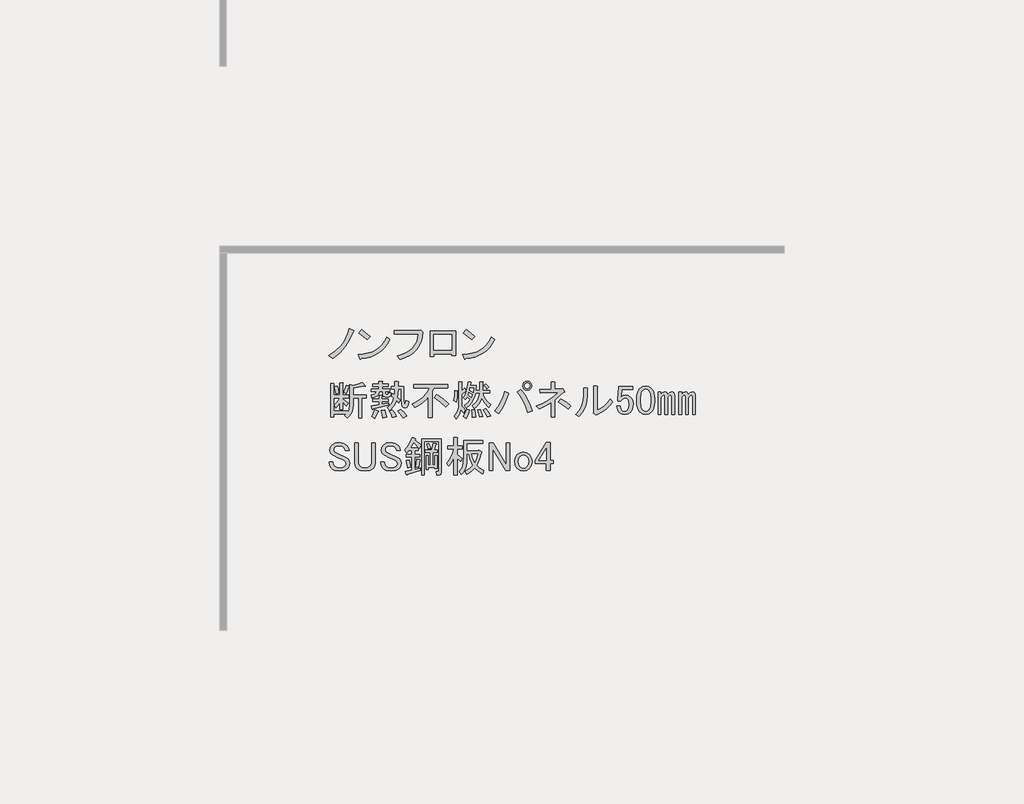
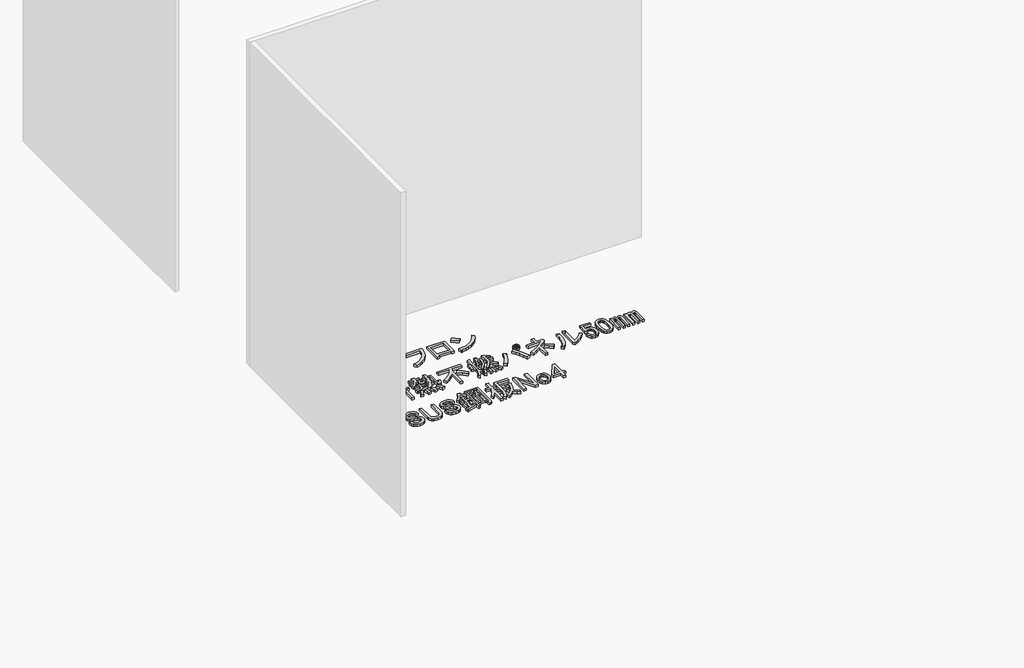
# One storey, part 32 of 117: 1 proxy.
"""IFC4 building model written with IfcOpenShell, lengths in millimetres."""

from ifc_helpers import new_model, si_unit, frame, origin, place, context, project, spatial, polyline, outline, extrude, element, save

model = new_model("IFC4")

# Units and contexts
model_context = context("Model", 3, world=origin())
ifc_project = project(units=[si_unit("LENGTHUNIT", "METRE", prefix="MILLI")], contexts=[model_context])

# Site, building, storey
site = spatial("IfcSite", under=ifc_project)
building = spatial("IfcBuilding", under=site)
storey = spatial("IfcBuildingStorey", under=building, Name="レベル 1", Elevation=500.0)

# Proxy
placement = place(None, origin())
element("IfcBuildingElementProxy", 1, Name="200㎜\u3000MS Pゴシック", ObjectType="200㎜\u3000MS Pゴシック", at=placement, inside=storey, context=model_context, shape_type="SweptSolid", body=[
    extrude(outline(polyline([(16943.6706985, -24607.0496882), (16918.0952502, -24666.8215225), (16889.646156, -24712.7998566), (16847.9782907, -24758.2034615), (16798.8389462, -24795.560858), (16771.2519457, -24773.7211493), (16818.9544673, -24743.2605029), (16858.6107805, -24704.7536481), (16875.9963381, -24680.8305462), (16891.3703435, -24652.7406577), (16904.7327969, -24620.4839827), (16916.0836981, -24584.0605212), (16947.1190736, -24597.8540214), (16950.2800841, -24602.4518548), (16943.6706985, -24607.0496882)])), frame((0.0, 0.0, 500.0), z_axis=(0.0, 0.0, 1.0), x_axis=(1.0, 0.0, 0.0)), (0.0, 0.0, 1.0), 25.0),
    extrude(outline(polyline([(17043.3977052, -24662.2236891), (16984.7753292, -24615.0958967), (17004.3161212, -24590.9572713), (17031.6157571, -24610.7854279), (17065.2374138, -24640.3839804), (17043.3977052, -24662.2236891)])), frame((0.0, 0.0, 500.0), z_axis=(0.0, 0.0, 1.0), x_axis=(1.0, 0.0, 0.0)), (0.0, 0.0, 1.0), 25.0),
    extrude(outline(polyline([(17205.4713328, -24662.2236891), (17188.947869, -24691.965924), (17169.8381239, -24717.9724192), (17148.1420975, -24740.2431748), (17123.8597898, -24758.7781907), (17096.9912008, -24773.577467), (17067.5363306, -24784.6410036), (17035.495179, -24791.9688006), (17000.8677461, -24795.560858), (16995.1204544, -24803.6070664), (16989.3731626, -24797.8597747), (16980.1774958, -24767.9738575), (17016.0082679, -24765.2977748), (17048.7857912, -24758.9937141), (17078.5100658, -24749.0616756), (17105.1810916, -24735.5016591), (17128.7988687, -24718.3136646), (17149.363397, -24697.4976923), (17166.8746766, -24673.053742), (17181.3327074, -24644.9818138), (17205.4713328, -24662.2236891)])), frame((0.0, 0.0, 500.0), z_axis=(0.0, 0.0, 1.0), x_axis=(1.0, 0.0, 0.0)), (0.0, 0.0, 1.0), 25.0),
    extrude(outline(polyline([(17256.2314136, -24777.1695243), (17290.014713, -24767.4889298), (17319.5234641, -24755.1142922), (17344.757667, -24740.0456116), (17365.7173217, -24722.282888), (17382.402428, -24701.8261214), (17394.8129862, -24678.6753118), (17402.9489961, -24652.8304591), (17406.8104577, -24624.2915635), (17234.3917049, -24624.2915635), (17234.3917049, -24599.0034798), (17409.1093744, -24599.0034798), (17425.2017914, -24595.5551047), (17437.8458332, -24607.0496882), (17434.325617, -24643.5449909), (17426.0638851, -24676.5919185), (17413.0606375, -24706.1904711), (17395.3158742, -24732.3406486), (17372.8295952, -24755.042451), (17345.6018005, -24774.2958784), (17313.6324901, -24790.1009308), (17276.921664, -24802.4576081), (17256.2314136, -24777.1695243)])), frame((0.0, 0.0, 500.0), z_axis=(0.0, 0.0, 1.0), x_axis=(1.0, 0.0, 0.0)), (0.0, 0.0, 1.0), 25.0),
    extrude(outline(polyline([(17670.955987, -24776.020066), (17644.5184449, -24776.020066), (17644.5184449, -24763.3760241), (17516.9285679, -24763.3760241), (17516.9285679, -24781.7673577), (17490.4910258, -24781.7673577), (17490.4910258, -24602.4518548), (17670.955987, -24602.4518548), (17670.955987, -24776.020066)]), holes=[polyline([(17516.9285679, -24627.7399386), (17516.9285679, -24738.0879404), (17644.5184449, -24738.0879404), (17644.5184449, -24627.7399386), (17516.9285679, -24627.7399386)])]), frame((0.0, 0.0, 500.0), z_axis=(0.0, 0.0, 1.0), x_axis=(1.0, 0.0, 0.0)), (0.0, 0.0, 1.0), 25.0),
    extrude(outline(polyline([(17947.0099049, -24662.2236891), (17930.4864411, -24691.965924), (17911.376696, -24717.9724192), (17889.6806696, -24740.2431748), (17865.3983619, -24758.7781907), (17838.5297729, -24773.577467), (17809.0749026, -24784.6410036), (17777.0337511, -24791.9688006), (17742.4063182, -24795.560858), (17736.6590264, -24803.6070664), (17730.9117347, -24797.8597747), (17721.7160679, -24767.9738575), (17757.5468399, -24765.2977748), (17790.3243633, -24758.9937141), (17820.0486378, -24749.0616756), (17846.7196637, -24735.5016591), (17870.3374407, -24718.3136646), (17890.9019691, -24697.4976923), (17908.4132486, -24673.053742), (17922.8712795, -24644.9818138), (17947.0099049, -24662.2236891)])), frame((0.0, 0.0, 500.0), z_axis=(0.0, 0.0, 1.0), x_axis=(1.0, 0.0, 0.0)), (0.0, 0.0, 1.0), 25.0),
    extrude(outline(polyline([(17784.9362772, -24662.2236891), (17726.3139013, -24615.0958967), (17745.8546933, -24590.9572713), (17773.1543291, -24610.7854279), (17806.7759859, -24640.3839804), (17784.9362772, -24662.2236891)])), frame((0.0, 0.0, 500.0), z_axis=(0.0, 0.0, 1.0), x_axis=(1.0, 0.0, 0.0)), (0.0, 0.0, 1.0), 25.0),
    extrude(outline(polyline([(16877.0021141, -25039.2345221), (16894.2439894, -24986.3594379), (16914.9342397, -24992.1067296), (16916.6584273, -24995.2677401), (16912.635323, -24997.8540214), (16895.3934477, -25046.1312722), (16877.0021141, -25039.2345221)])), frame((0.0, 0.0, 500.0), z_axis=(0.0, 0.0, 1.0), x_axis=(1.0, 0.0, 0.0)), (0.0, 0.0, 1.0), 25.0),
    extrude(outline(polyline([(17031.0295333, -24990.9572713), (17029.3053458, -24995.5551047), (17021.8338665, -24993.256188), (16944.8201569, -25005.9002299), (16944.8201569, -25055.326939), (17036.7768251, -25055.326939), (17036.7768251, -25077.1666477), (17005.7414495, -25077.1666477), (17005.7414495, -25217.4005666), (16982.7522825, -25217.4005666), (16982.7522825, -25077.1666477), (16944.8201569, -25077.1666477), (16944.8201569, -25126.5933568), (16942.2338756, -25154.3958807), (16934.4750317, -25179.1810764), (16921.5436253, -25200.948944), (16903.4396562, -25219.6994833), (16886.1977809, -25200.1586914), (16896.5429061, -25190.9630245), (16806.8851546, -25190.9630245), (16806.8851546, -25212.8027332), (16783.8959876, -25212.8027332), (16783.8959876, -24973.715396), (16805.7356963, -24973.715396), (16810.6208943, -24976.0143127), (16806.8851546, -24980.6121461), (16806.8851546, -25056.4763974), (16849.4151137, -25056.4763974), (16849.4151137, -24969.1175626), (16867.8064473, -24969.1175626), (16872.6916453, -24971.4164793), (16868.9559057, -24976.0143127), (16868.9559057, -25056.4763974), (16912.635323, -25056.4763974), (16912.635323, -25074.867731), (16868.9559057, -25074.867731), (16868.9559057, -25084.0633978), (16909.186948, -25110.5009399), (16895.3934477, -25132.3406486), (16868.9559057, -25105.9031065), (16868.9559057, -25158.7781907), (16849.4151137, -25158.7781907), (16849.4151137, -25110.5009399), (16836.1963426, -25130.3290965), (16821.8281132, -25146.1341488), (16809.1840713, -25127.7428152), (16831.02378, -25103.6041898), (16848.2656553, -25074.867731), (16806.8851546, -25074.867731), (16806.8851546, -25169.1233159), (16904.5891146, -25169.1233159), (16904.5891146, -25182.9168161), (16917.520521, -25158.7781907), (16921.8309898, -25125.4438985), (16921.8309898, -24980.6121461), (16943.6706985, -24986.3594379), (16979.8786366, -24978.8879586), (17010.339283, -24965.6691875), (17031.0295333, -24990.9572713)])), frame((0.0, 0.0, 500.0), z_axis=(0.0, 0.0, 1.0), x_axis=(1.0, 0.0, 0.0)), (0.0, 0.0, 1.0), 25.0),
    extrude(outline(polyline([(16822.9775716, -25047.2807305), (16810.3335297, -24996.7045631), (16829.8743217, -24989.8078129), (16837.6331656, -25013.9464383), (16842.5183636, -25040.3839804), (16822.9775716, -25047.2807305)])), frame((0.0, 0.0, 500.0), z_axis=(0.0, 0.0, 1.0), x_axis=(1.0, 0.0, 0.0)), (0.0, 0.0, 1.0), 25.0),
    extrude(outline(polyline([(17121.8367431, -25167.9738575), (17125.2851182, -25172.8590555), (17119.5378264, -25176.020066), (17109.7674304, -25201.5955143), (17098.8475761, -25220.8489417), (17075.858409, -25209.3543582), (17088.5024509, -25185.790462), (17098.8475761, -25158.7781907), (17121.8367431, -25167.9738575)])), frame((0.0, 0.0, 500.0), z_axis=(0.0, 0.0, 1.0), x_axis=(1.0, 0.0, 0.0)), (0.0, 0.0, 1.0), 25.0),
    extrude(outline(polyline([(17166.6656188, -25163.3760241), (17176.7233794, -25190.67566), (17181.6085774, -25212.8027332), (17152.8721186, -25218.550025), (17150.2858373, -25196.9976809), (17142.5269934, -25166.8243992), (17166.6656188, -25163.3760241)])), frame((0.0, 0.0, 500.0), z_axis=(0.0, 0.0, 1.0), x_axis=(1.0, 0.0, 0.0)), (0.0, 0.0, 1.0), 25.0),
    extrude(outline(polyline([(17281.611454, -25157.6287323), (17306.3248086, -25178.8937119), (17325.2908714, -25203.6070664), (17298.8533293, -25218.550025), (17279.5999019, -25188.9514724), (17260.9212037, -25169.1233159), (17281.611454, -25157.6287323)])), frame((0.0, 0.0, 500.0), z_axis=(0.0, 0.0, 1.0), x_axis=(1.0, 0.0, 0.0)), (0.0, 0.0, 1.0), 25.0),
    extrude(outline(polyline([(17222.9890781, -25216.2511083), (17214.655505, -25191.5377537), (17201.1493694, -25170.2727742), (17221.8396197, -25162.2265657), (17238.7941304, -25183.7789098), (17250.5760785, -25207.0554415), (17222.9890781, -25216.2511083)])), frame((0.0, 0.0, 500.0), z_axis=(0.0, 0.0, 1.0), x_axis=(1.0, 0.0, 0.0)), (0.0, 0.0, 1.0), 25.0),
    extrude(outline(polyline([(17083.9046175, -25153.0308989), (17081.8930654, -25157.9160969), (17078.1573257, -25156.479274), (17072.410034, -25132.3406486), (17127.5840349, -25124.2944401), (17127.5840349, -25101.3052731), (17083.9046175, -25101.3052731), (17083.9046175, -25082.9139395), (17127.5840349, -25082.9139395), (17127.5840349, -25059.9247724), (17145.9753685, -25059.9247724), (17150.8605665, -25062.2236891), (17147.1248268, -25066.8215225), (17147.1248268, -25082.9139395), (17191.9537026, -25082.9139395), (17191.9537026, -25101.3052731), (17147.1248268, -25101.3052731), (17147.1248268, -25120.8460651), (17197.7009943, -25111.6503983), (17197.7009943, -25127.7428152), (17083.9046175, -25153.0308989)])), frame((0.0, 0.0, 500.0), z_axis=(0.0, 0.0, 1.0), x_axis=(1.0, 0.0, 0.0)), (0.0, 0.0, 1.0), 25.0),
    extrude(outline(polyline([(17154.021577, -25031.1883136), (17128.7334932, -25031.1883136), (17124.1356598, -25048.6457123), (17113.7905346, -25061.9363245), (17097.6981177, -25071.0601502), (17075.858409, -25076.0171893), (17071.2605756, -25056.4763974), (17096.5486594, -25047.8554597), (17104.0201386, -25040.5276627), (17108.0432429, -25031.1883136), (17072.410034, -25031.1883136), (17072.410034, -25012.79698), (17126.4345765, -25012.79698), (17126.4345765, -24995.5551047), (17082.7551591, -24995.5551047), (17082.7551591, -24977.1637711), (17126.4345765, -24977.1637711), (17126.4345765, -24958.7724374), (17148.2742852, -24958.7724374), (17153.1594832, -24961.0713541), (17149.4237436, -24965.6691875), (17149.4237436, -24977.1637711), (17191.9537026, -24977.1637711), (17191.9537026, -24995.5551047), (17149.4237436, -24995.5551047), (17149.4237436, -25012.79698), (17202.2988277, -25012.79698), (17202.2988277, -25031.1883136), (17173.5623689, -25031.1883136), (17173.5623689, -25043.8323555), (17174.9991919, -25049.0049181), (17179.3096607, -25050.7291056), (17189.6547859, -25050.7291056), (17193.3905255, -25047.5680951), (17193.1031609, -25038.0850637), (17212.6439529, -25040.3839804), (17209.770307, -25061.9363245), (17204.4540622, -25067.3244106), (17196.551536, -25069.1204392), (17172.4129106, -25069.1204392), (17158.6194104, -25064.2352412), (17154.021577, -25049.5796472), (17154.021577, -25031.1883136)])), frame((0.0, 0.0, 500.0), z_axis=(0.0, 0.0, 1.0), x_axis=(1.0, 0.0, 0.0)), (0.0, 0.0, 1.0), 25.0),
    extrude(outline(polyline([(17285.0598291, -25013.9464383), (17263.2201204, -25013.9464383), (17258.622287, -25071.4193559), (17278.163079, -25089.8106896), (17267.8179538, -25111.6503983), (17251.7255369, -25095.5579813), (17232.4721095, -25133.2027424), (17202.2988277, -25165.6749408), (17185.0569525, -25144.9846905), (17200.1435933, -25133.0590601), (17213.2186821, -25117.9724192), (17224.2822187, -25099.7247679), (17233.3342033, -25078.316106), (17216.092328, -25063.3731475), (17224.1385364, -25046.1312722), (17237.9320367, -25056.4763974), (17240.2309534, -25013.9464383), (17212.6439529, -25013.9464383), (17212.6439529, -24995.5551047), (17240.2309534, -24995.5551047), (17240.2309534, -24961.0713541), (17262.0706621, -24961.0713541), (17266.95586, -24963.3702708), (17263.2201204, -24967.9681043), (17263.2201204, -24995.5551047), (17304.6006211, -24995.5551047), (17304.6006211, -25092.1096063), (17308.0489961, -25116.2482317), (17311.2818477, -25118.2597838), (17314.0836525, -25115.0987733), (17318.3941213, -25093.2590646), (17337.9349133, -25100.1558147), (17333.408921, -25126.9525626), (17325.578236, -25142.9731384), (17314.4428582, -25148.2175421), (17300.0027877, -25142.6857738), (17293.4652433, -25135.3579768), (17288.7955687, -25123.719711), (17285.0598291, -25087.5117729), (17285.0598291, -25013.9464383)])), frame((0.0, 0.0, 500.0), z_axis=(0.0, 0.0, 1.0), x_axis=(1.0, 0.0, 0.0)), (0.0, 0.0, 1.0), 25.0),
    extrude(outline(polyline([(17373.5681222, -24980.6121461), (17614.9543761, -24980.6121461), (17614.9543761, -25005.9002299), (17514.9514995, -25005.9002299), (17504.6063743, -25030.0388553), (17504.6063743, -25216.2511083), (17478.1688322, -25216.2511083), (17478.1688322, -25069.1204392), (17457.3348996, -25092.3969709), (17433.9146857, -25112.7998566), (17407.9081905, -25130.3290965), (17379.315414, -25144.9846905), (17363.222997, -25118.5471484), (17402.807469, -25098.1442626), (17436.500967, -25072.5688143), (17464.3034909, -25041.8208034), (17486.2150407, -25005.9002299), (17373.5681222, -25005.9002299), (17373.5681222, -24980.6121461)])), frame((0.0, 0.0, 500.0), z_axis=(0.0, 0.0, 1.0), x_axis=(1.0, 0.0, 0.0)), (0.0, 0.0, 1.0), 25.0),
    extrude(outline(polyline([(17600.0114176, -25141.5363154), (17560.9298336, -25103.3168252), (17519.5493329, -25073.7182726), (17535.6417498, -25053.0280223), (17579.3211672, -25081.1897519), (17620.7016679, -25119.6966067), (17600.0114176, -25141.5363154)])), frame((0.0, 0.0, 500.0), z_axis=(0.0, 0.0, 1.0), x_axis=(1.0, 0.0, 0.0)), (0.0, 0.0, 1.0), 25.0),
    extrude(outline(polyline([(17767.832337, -25163.3760241), (17759.2113993, -25193.8366704), (17744.8431699, -25220.8489417), (17725.3023779, -25208.2048998), (17739.3832427, -25183.4915453), (17749.4410033, -25155.3298156), (17767.832337, -25163.3760241)])), frame((0.0, 0.0, 500.0), z_axis=(0.0, 0.0, 1.0), x_axis=(1.0, 0.0, 0.0)), (0.0, 0.0, 1.0), 25.0),
    extrude(outline(polyline([(17682.7724189, -25025.4410219), (17687.3702523, -25027.7399386), (17682.7724189, -25032.337772), (17681.6229605, -25071.9940851), (17675.8756688, -25105.9031065), (17657.4843352, -25093.2590646), (17663.2316269, -25058.7753141), (17664.3810853, -25021.9926468), (17682.7724189, -25025.4410219)])), frame((0.0, 0.0, 500.0), z_axis=(0.0, 0.0, 1.0), x_axis=(1.0, 0.0, 0.0)), (0.0, 0.0, 1.0), 25.0),
    extrude(outline(polyline([(17734.4980447, -25007.0496882), (17743.6937116, -25024.2915635), (17745.1305345, -25030.3262199), (17740.2453365, -25030.0388553), (17713.8077944, -25050.7291056), (17713.8077944, -25134.6395653), (17727.6012946, -25146.9962426), (17739.0958781, -25163.3760241), (17726.4518363, -25184.0662744), (17708.0605026, -25158.7781907), (17696.2785545, -25194.6987642), (17674.7262104, -25224.2973168), (17659.7832519, -25205.9059831), (17674.8698927, -25187.1554438), (17685.6460648, -25166.5370346), (17692.111768, -25144.0507556), (17694.2670024, -25119.6966067), (17694.2670024, -24962.2208125), (17712.6583361, -24962.2208125), (17717.543534, -24964.5197292), (17713.8077944, -24969.1175626), (17713.8077944, -25027.7399386), (17734.4980447, -25007.0496882)])), frame((0.0, 0.0, 500.0), z_axis=(0.0, 0.0, 1.0), x_axis=(1.0, 0.0, 0.0)), (0.0, 0.0, 1.0), 25.0),
    extrude(outline(polyline([(17885.0770889, -24976.0143127), (17906.9167975, -25000.1529381), (17889.6749223, -25011.6475216), (17883.0655367, -25000.1529381), (17870.1341303, -24986.3594379), (17885.0770889, -24976.0143127)])), frame((0.0, 0.0, 500.0), z_axis=(0.0, 0.0, 1.0), x_axis=(1.0, 0.0, 0.0)), (0.0, 0.0, 1.0), 25.0),
    extrude(outline(polyline([(17895.422214, -25212.8027332), (17882.203443, -25184.6410036), (17865.5362969, -25159.927649), (17883.9276305, -25151.8814406), (17902.8936933, -25174.8706076), (17918.4113811, -25202.4576081), (17895.422214, -25212.8027332)])), frame((0.0, 0.0, 500.0), z_axis=(0.0, 0.0, 1.0), x_axis=(1.0, 0.0, 0.0)), (0.0, 0.0, 1.0), 25.0),
    extrude(outline(polyline([(17845.9955049, -25157.6287323), (17864.3868385, -25207.0554415), (17840.2482131, -25211.6532749), (17826.4547129, -25161.0771074), (17845.9955049, -25157.6287323)])), frame((0.0, 0.0, 500.0), z_axis=(0.0, 0.0, 1.0), x_axis=(1.0, 0.0, 0.0)), (0.0, 0.0, 1.0), 25.0),
    extrude(outline(polyline([(17787.3731289, -25215.1016499), (17787.9478581, -25188.0893787), (17785.0742122, -25159.927649), (17804.6150042, -25158.7781907), (17810.9370252, -25184.9283682), (17811.5117543, -25212.8027332), (17787.3731289, -25215.1016499)])), frame((0.0, 0.0, 500.0), z_axis=(0.0, 0.0, 1.0), x_axis=(1.0, 0.0, 0.0)), (0.0, 0.0, 1.0), 25.0),
    extrude(outline(polyline([(17906.9167975, -25142.6857738), (17876.1687866, -25112.2251274), (17855.1911717, -25078.316106), (17846.7857575, -25100.4431793), (17835.3630151, -25119.6966067), (17820.9229446, -25136.0763882), (17803.4655459, -25149.5825239), (17789.6720456, -25131.1911902), (17810.5059783, -25112.2969686), (17825.8799837, -25091.2475125), (17835.794062, -25068.042822), (17840.2482131, -25042.6828971), (17811.5117543, -25042.6828971), (17803.537387, -25073.2872258), (17789.9594102, -25100.7305439), (17770.777824, -25125.0128516), (17745.9926283, -25146.1341488), (17733.3485864, -25130.0417319), (17759.2113993, -25108.4893878), (17774.7290871, -25087.5117729), (17752.8893784, -25067.9709809), (17739.0958781, -25088.6612312), (17725.3023779, -25073.7182726), (17737.7308964, -25054.6803687), (17747.4294512, -25029.7514907), (17754.3980425, -24998.9316386), (17758.6366701, -24962.2208125), (17779.3269205, -24964.5197292), (17782.7752955, -24967.1060105), (17777.0280038, -24970.267021), (17774.7290871, -24988.6583546), (17818.4085044, -24988.6583546), (17814.9601294, -25024.2915635), (17840.2482131, -25024.2915635), (17840.2482131, -24962.2208125), (17862.0879218, -24962.2208125), (17866.9731198, -24964.5197292), (17863.2373802, -24969.1175626), (17863.2373802, -25024.2915635), (17912.6640893, -25024.2915635), (17912.6640893, -25042.6828971), (17863.2373802, -25042.6828971), (17869.7749245, -25064.4507647), (17881.3413492, -25084.9254916), (17897.9366542, -25104.1070778), (17919.5608394, -25121.9955234), (17906.9167975, -25142.6857738)]), holes=[polyline([(17782.7752955, -25072.5688143), (17789.6720456, -25053.0280223), (17764.3839619, -25036.9356054), (17758.6366701, -25054.1774807), (17782.7752955, -25072.5688143)]), polyline([(17772.4301704, -25007.0496882), (17768.9817953, -25023.1421052), (17794.269879, -25036.9356054), (17798.8677125, -25007.0496882), (17772.4301704, -25007.0496882)])]), frame((0.0, 0.0, 500.0), z_axis=(0.0, 0.0, 1.0), x_axis=(1.0, 0.0, 0.0)), (0.0, 0.0, 1.0), 25.0),
    extrude(outline(polyline([(18132.2106345, -25016.245355), (18158.8637001, -25052.9561812), (18181.3499791, -25090.6727833), (18199.6694716, -25129.3951616), (18213.8221775, -25169.1233159), (18182.786802, -25179.468441), (18167.3409554, -25136.3637528), (18149.7398744, -25097.856898), (18129.983559, -25063.9478766), (18108.0720092, -25034.6366887), (18132.2106345, -25016.245355)])), frame((0.0, 0.0, 500.0), z_axis=(0.0, 0.0, 1.0), x_axis=(1.0, 0.0, 0.0)), (0.0, 0.0, 1.0), 25.0),
    extrude(outline(polyline([(18044.8517998, -25042.6828971), (18048.874904, -25048.1428243), (18042.5528831, -25053.0280223), (18030.6272527, -25088.4457078), (18015.5406118, -25122.282888), (17997.2929605, -25154.539563), (17975.8842987, -25185.2157328), (17949.4467566, -25167.9738575), (17972.6514471, -25136.5074351), (17991.689351, -25103.0294606), (18006.5604684, -25067.539934), (18017.2647993, -25030.0388553), (18044.8517998, -25042.6828971)])), frame((0.0, 0.0, 500.0), z_axis=(0.0, 0.0, 1.0), x_axis=(1.0, 0.0, 0.0)), (0.0, 0.0, 1.0), 25.0),
    extrude(outline(polyline([(18178.1889686, -25021.9926468), (18165.5449268, -25019.6937301), (18155.1998016, -25012.79698), (18148.3030515, -25002.4518548), (18146.0041348, -24989.8078129), (18148.3030515, -24977.1637711), (18155.1998016, -24966.8186459), (18165.5449268, -24959.9218958), (18178.1889686, -24957.6229791), (18190.8330105, -24959.9218958), (18201.1781357, -24966.8186459), (18208.0748858, -24977.1637711), (18210.3738025, -24989.8078129), (18208.0748858, -25002.4518548), (18201.1781357, -25012.79698), (18190.8330105, -25019.6937301), (18178.1889686, -25021.9926468)]), holes=[polyline([(18178.1889686, -25010.4980633), (18186.5225417, -25009.0612403), (18193.1319272, -25004.7507715), (18197.442396, -24998.141386), (18198.879219, -24989.8078129), (18197.442396, -24981.4742399), (18193.1319272, -24974.8648544), (18186.5225417, -24970.5543855), (18178.1889686, -24969.1175626), (18169.8553956, -24970.5543855), (18163.2460101, -24974.8648544), (18158.9355412, -24981.4742399), (18157.4987183, -24989.8078129), (18158.9355412, -24998.141386), (18163.2460101, -25004.7507715), (18169.8553956, -25009.0612403), (18178.1889686, -25010.4980633)])]), frame((0.0, 0.0, 500.0), z_axis=(0.0, 0.0, 1.0), x_axis=(1.0, 0.0, 0.0)), (0.0, 0.0, 1.0), 25.0),
    extrude(outline(polyline([(18421.8741393, -25011.6475216), (18428.7708894, -25009.3486049), (18441.4149312, -25026.5904802), (18442.5643896, -25032.6251366), (18436.8170978, -25034.6366887), (18373.5968885, -25090.9601479), (18373.5968885, -25211.6532749), (18347.1593464, -25211.6532749), (18347.1593464, -25109.3514816), (18306.9283041, -25133.4901069), (18262.0994283, -25155.3298156), (18242.5586363, -25134.6395653), (18288.1059235, -25115.1706145), (18329.3427419, -25092.3969709), (18366.2690915, -25066.3186345), (18398.8849722, -25036.9356054), (18268.9961784, -25042.6828971), (18265.5478034, -25017.3948134), (18347.1593464, -25015.0958967), (18347.1593464, -24963.3702708), (18370.1485134, -24963.3702708), (18376.1831698, -24966.8186459), (18373.5968885, -24972.5659377), (18373.5968885, -25013.9464383), (18421.8741393, -25011.6475216)])), frame((0.0, 0.0, 500.0), z_axis=(0.0, 0.0, 1.0), x_axis=(1.0, 0.0, 0.0)), (0.0, 0.0, 1.0), 25.0),
    extrude(outline(polyline([(18467.8524733, -25155.3298156), (18430.7824415, -25126.0186277), (18397.7355139, -25104.7536481), (18414.9773892, -25082.9139395), (18453.7716085, -25106.1904711), (18487.3932653, -25132.3406486), (18467.8524733, -25155.3298156)])), frame((0.0, 0.0, 500.0), z_axis=(0.0, 0.0, 1.0), x_axis=(1.0, 0.0, 0.0)), (0.0, 0.0, 1.0), 25.0),
    extrude(outline(polyline([(18674.8469334, -25162.2265657), (18699.6321291, -25150.0135708), (18723.4115488, -25132.9153778), (18746.1851924, -25110.9319868), (18767.9530599, -25084.0633978), (18784.0454768, -25105.9031065), (18760.7689452, -25133.7056304), (18734.6187677, -25157.3413678), (18705.5949443, -25176.8103186), (18673.697475, -25192.1124829), (18664.5018082, -25196.7103163), (18646.1104746, -25182.9168161), (18648.4093913, -25177.1695243), (18648.4093913, -24992.1067296), (18672.5480167, -24992.1067296), (18678.2953084, -24995.5551047), (18674.8469334, -25001.3023965), (18674.8469334, -25162.2265657)])), frame((0.0, 0.0, 500.0), z_axis=(0.0, 0.0, 1.0), x_axis=(1.0, 0.0, 0.0)), (0.0, 0.0, 1.0), 25.0),
    extrude(outline(polyline([(18520.8195142, -25193.2619413), (18545.9639157, -25164.0225944), (18563.9242024, -25131.4785548), (18574.7003745, -25095.6298225), (18578.2924318, -25056.4763974), (18578.2924318, -25004.7507715), (18602.4310572, -25004.7507715), (18608.178349, -25008.1991466), (18604.7299739, -25013.9464383), (18604.7299739, -25055.326939), (18600.9223931, -25101.0897496), (18589.4996507, -25141.82368), (18570.4617468, -25177.5287301), (18543.8086812, -25208.2048998), (18520.8195142, -25193.2619413)])), frame((0.0, 0.0, 500.0), z_axis=(0.0, 0.0, 1.0), x_axis=(1.0, 0.0, 0.0)), (0.0, 0.0, 1.0), 25.0),
    extrude(outline(polyline([(18825.4259775, -24995.5551047), (18924.2793958, -24995.5551047), (18924.2793958, -25017.3948134), (18847.2656862, -25017.3948134), (18847.2656862, -25020.8431884), (18843.8173111, -25063.3731475), (18842.6678528, -25070.2698976), (18858.1855405, -25059.9247724), (18874.8526866, -25056.4763974), (18895.8303016, -25060.212137), (18912.7848123, -25071.4193559), (18924.854125, -25091.2475125), (18928.8772292, -25118.5471484), (18923.7046666, -25153.0308989), (18917.2389634, -25166.8243992), (18908.1869788, -25178.3189827), (18890.0830098, -25190.3882954), (18867.9559365, -25194.4113996), (18846.9783216, -25190.67566), (18830.0238109, -25179.468441), (18817.9544982, -25160.7897428), (18811.6324773, -25134.6395653), (18838.0700194, -25134.6395653), (18842.0931236, -25153.3182635), (18849.5646029, -25165.6749408), (18857.3234468, -25170.8475034), (18866.8064782, -25172.5716909), (18879.1631555, -25170.5601388), (18888.6461869, -25164.5254825), (18898.1292183, -25147.5709718), (18901.2902287, -25121.9955234), (18898.7039474, -25097.856898), (18890.9451036, -25082.9139395), (18883.4736243, -25077.7413769), (18874.8526866, -25076.0171893), (18861.9212802, -25078.6034706), (18850.7140612, -25086.3623145), (18841.5183944, -25096.7074397), (18818.5292274, -25096.7074397), (18819.6786857, -25088.6612312), (18825.4259775, -25000.1529381), (18825.4259775, -24995.5551047)])), frame((0.0, 0.0, 500.0), z_axis=(0.0, 0.0, 1.0), x_axis=(1.0, 0.0, 0.0)), (0.0, 0.0, 1.0), 25.0),
    extrude(outline(polyline([(18954.1653129, -25081.7644811), (18955.6021359, -25058.2005849), (18959.9126047, -25038.0850637), (18967.0967194, -25021.4179176), (18977.15448, -25008.1991466), (18995.258449, -24996.1298339), (19017.3855223, -24992.1067296), (19039.5125956, -24996.1298339), (19057.6165646, -25008.1991466), (19067.6743252, -25021.4179176), (19074.8584399, -25038.0850637), (19079.1689087, -25058.2005849), (19080.6057317, -25081.7644811), (19080.6057317, -25104.7536481), (19079.1689087, -25127.8146563), (19074.8584399, -25147.5709718), (19067.6743252, -25164.0225944), (19057.6165646, -25177.1695243), (19039.5125956, -25189.238837), (19017.3855223, -25193.2619413), (18995.258449, -25189.238837), (18977.15448, -25177.1695243), (18967.0967194, -25164.0225944), (18959.9126047, -25147.5709718), (18955.6021359, -25127.8146563), (18954.1653129, -25104.7536481), (18954.1653129, -25081.7644811)]), holes=[polyline([(19017.3855223, -25013.9464383), (19006.4656679, -25016.245355), (18996.695272, -25023.1421052), (18990.1577276, -25032.2659308), (18985.488053, -25044.6944493), (18981.7523134, -25079.4655644), (18981.7523134, -25105.9031065), (18985.7754176, -25140.0994925), (18990.8042979, -25152.6716932), (18997.8447303, -25162.2265657), (19007.3277617, -25169.1233159), (19017.3855223, -25171.4222326), (19028.3053766, -25169.1233159), (19038.0757726, -25162.2265657), (19044.613317, -25153.1027401), (19049.2829916, -25140.6742216), (19053.0187312, -25105.9031065), (19053.0187312, -25079.4655644), (19049.2829916, -25044.6944493), (19044.613317, -25032.2659308), (19038.0757726, -25023.1421052), (19028.3053766, -25016.245355), (19017.3855223, -25013.9464383)])]), frame((0.0, 0.0, 500.0), z_axis=(0.0, 0.0, 1.0), x_axis=(1.0, 0.0, 0.0)), (0.0, 0.0, 1.0), 25.0),
    extrude(outline(polyline([(19347.2800693, -25032.337772), (19355.6136424, -25033.7745949), (19362.2230279, -25038.0850637), (19367.3955905, -25046.7060014), (19369.119778, -25058.7753141), (19369.119778, -25193.2619413), (19349.578986, -25193.2619413), (19349.578986, -25069.1204392), (19346.9927047, -25059.6374078), (19339.2338609, -25056.4763974), (19328.8887357, -25061.0742308), (19322.8540793, -25069.6951684), (19320.8425272, -25079.4655644), (19320.8425272, -25193.2619413), (19301.3017352, -25193.2619413), (19301.3017352, -25069.1204392), (19298.715454, -25059.6374078), (19290.9566101, -25056.4763974), (19280.6114849, -25061.0742308), (19274.5768286, -25069.6951684), (19272.5652764, -25079.4655644), (19272.5652764, -25193.2619413), (19253.0244845, -25193.2619413), (19253.0244845, -25035.786147), (19272.5652764, -25035.786147), (19272.5652764, -25053.0280223), (19284.6345891, -25037.5103346), (19297.8533602, -25032.337772), (19307.049027, -25033.7745949), (19313.9457771, -25038.0850637), (19320.8425272, -25051.878564), (19333.7739337, -25037.22297), (19347.2800693, -25032.337772)])), frame((0.0, 0.0, 500.0), z_axis=(0.0, 0.0, 1.0), x_axis=(1.0, 0.0, 0.0)), (0.0, 0.0, 1.0), 25.0),
    extrude(outline(polyline([(19125.4346074, -25193.2619413), (19105.8938154, -25193.2619413), (19105.8938154, -25035.786147), (19125.4346074, -25035.786147), (19125.4346074, -25053.0280223), (19137.5039201, -25037.5103346), (19150.7226911, -25032.337772), (19159.9183579, -25033.7745949), (19166.8151081, -25038.0850637), (19173.7118582, -25051.878564), (19186.6432646, -25037.22297), (19200.1494003, -25032.337772), (19208.4829733, -25033.7745949), (19215.0923588, -25038.0850637), (19220.2649214, -25046.7060014), (19221.989109, -25058.7753141), (19221.989109, -25193.2619413), (19202.448317, -25193.2619413), (19202.448317, -25069.1204392), (19199.8620357, -25059.6374078), (19192.1031918, -25056.4763974), (19181.7580666, -25061.0742308), (19175.7234103, -25069.6951684), (19173.7118582, -25079.4655644), (19173.7118582, -25193.2619413), (19154.1710662, -25193.2619413), (19154.1710662, -25069.1204392), (19151.5847849, -25059.6374078), (19143.825941, -25056.4763974), (19133.4808158, -25061.0742308), (19127.4461595, -25069.6951684), (19125.4346074, -25079.4655644), (19125.4346074, -25193.2619413)])), frame((0.0, 0.0, 500.0), z_axis=(0.0, 0.0, 1.0), x_axis=(1.0, 0.0, 0.0)), (0.0, 0.0, 1.0), 25.0),
    extrude(outline(polyline([(16779.2981542, -25447.2807305), (16783.3212584, -25426.8778448), (16795.3905711, -25409.3486049), (16815.7934569, -25397.2792922), (16844.8172803, -25393.256188), (16876.1400204, -25397.8540214), (16898.8418228, -25411.6475216), (16910.9111355, -25429.1767615), (16914.9342397, -25449.5796472), (16888.4966976, -25449.5796472), (16886.1977809, -25436.9356054), (16879.3010308, -25426.5904802), (16866.0822598, -25418.8316363), (16847.116197, -25416.245355), (16826.7133112, -25418.5442717), (16813.7819048, -25425.4410219), (16807.7472484, -25434.0619595), (16805.7356963, -25443.8323555), (16810.3335297, -25458.7753141), (16831.02378, -25470.2698976), (16890.7956143, -25496.7074397), (16908.0374896, -25508.2020232), (16917.520521, -25521.9955234), (16920.6815315, -25538.0879404), (16916.6584273, -25559.3529199), (16904.5891146, -25577.1695243), (16894.6031951, -25584.7128448), (16881.8873121, -25590.1009308), (16848.2656553, -25594.4113996), (16814.6439985, -25589.238837), (16801.0660217, -25582.7731338), (16789.6432794, -25573.7211493), (16778.4360604, -25555.3298156), (16774.7003208, -25530.0417319), (16801.1378629, -25530.0417319), (16803.4367796, -25547.8583363), (16810.3335297, -25559.927649), (16826.4259466, -25569.4106804), (16849.4151137, -25572.5716909), (16870.3927286, -25569.698045), (16885.0483226, -25561.0771074), (16891.9450727, -25551.8814406), (16894.2439894, -25542.6857738), (16892.5198019, -25533.2027424), (16887.3472393, -25525.4438985), (16868.9559057, -25513.949315), (16839.0699885, -25500.1558147), (16805.7356963, -25485.2128562), (16789.6432794, -25474.867731), (16781.8844355, -25462.7984183), (16779.2981542, -25447.2807305)])), frame((0.0, 0.0, 500.0), z_axis=(0.0, 0.0, 1.0), x_axis=(1.0, 0.0, 0.0)), (0.0, 0.0, 1.0), 25.0),
    extrude(outline(polyline([(16954.7054987, -25395.5551047), (16981.1430408, -25395.5551047), (16981.1430408, -25533.4901069), (16983.7293221, -25548.1457009), (16991.488166, -25559.927649), (17007.0058537, -25569.4106804), (17028.2708332, -25572.5716909), (17049.5358128, -25569.4106804), (17065.0535005, -25559.927649), (17072.8123444, -25548.1457009), (17075.3986257, -25533.4901069), (17075.3986257, -25395.5551047), (17101.8361678, -25395.5551047), (17101.8361678, -25534.6395653), (17097.8130635, -25557.6287323), (17085.7437508, -25576.020066), (17075.2549434, -25584.0662744), (17062.1798546, -25589.8135662), (17028.2708332, -25594.4113996), (16994.3618119, -25589.8135662), (16981.2867231, -25584.0662744), (16970.7979156, -25576.020066), (16958.7286029, -25557.6287323), (16954.7054987, -25534.6395653), (16954.7054987, -25395.5551047)])), frame((0.0, 0.0, 500.0), z_axis=(0.0, 0.0, 1.0), x_axis=(1.0, 0.0, 0.0)), (0.0, 0.0, 1.0), 25.0),
    extrude(outline(polyline([(17144.1822135, -25447.2807305), (17148.2053177, -25426.8778448), (17160.2746304, -25409.3486049), (17180.6775161, -25397.2792922), (17209.7013395, -25393.256188), (17241.0240796, -25397.8540214), (17263.7258821, -25411.6475216), (17275.7951948, -25429.1767615), (17279.818299, -25449.5796472), (17253.3807569, -25449.5796472), (17251.0818402, -25436.9356054), (17244.1850901, -25426.5904802), (17230.966319, -25418.8316363), (17212.0002562, -25416.245355), (17191.5973705, -25418.5442717), (17178.665964, -25425.4410219), (17172.6313077, -25434.0619595), (17170.6197556, -25443.8323555), (17175.217589, -25458.7753141), (17195.9078393, -25470.2698976), (17255.6796736, -25496.7074397), (17272.9215489, -25508.2020232), (17282.4045803, -25521.9955234), (17285.5655908, -25538.0879404), (17281.5424865, -25559.3529199), (17269.4731738, -25577.1695243), (17259.4872544, -25584.7128448), (17246.7713714, -25590.1009308), (17213.1497146, -25594.4113996), (17179.5280578, -25589.238837), (17165.950081, -25582.7731338), (17154.5273386, -25573.7211493), (17143.3201197, -25555.3298156), (17139.5843801, -25530.0417319), (17166.0219222, -25530.0417319), (17168.3208389, -25547.8583363), (17175.217589, -25559.927649), (17191.3100059, -25569.4106804), (17214.2991729, -25572.5716909), (17235.2767879, -25569.698045), (17249.9323819, -25561.0771074), (17256.829132, -25551.8814406), (17259.1280487, -25542.6857738), (17257.4038611, -25533.2027424), (17252.2312986, -25525.4438985), (17233.8399649, -25513.949315), (17203.9540478, -25500.1558147), (17170.6197556, -25485.2128562), (17154.5273386, -25474.867731), (17146.7684948, -25462.7984183), (17144.1822135, -25447.2807305)])), frame((0.0, 0.0, 500.0), z_axis=(0.0, 0.0, 1.0), x_axis=(1.0, 0.0, 0.0)), (0.0, 0.0, 1.0), 25.0),
    extrude(outline(polyline([(17413.8451429, -25434.6366887), (17372.4646422, -25390.9572713), (17350.6249335, -25430.0388553), (17405.7989344, -25430.0388553), (17405.7989344, -25448.4301889), (17379.3613923, -25448.4301889), (17379.3613923, -25477.1666477), (17417.2935179, -25477.1666477), (17417.2935179, -25495.5579813), (17379.3613923, -25495.5579813), (17379.3613923, -25582.9168161), (17418.4429763, -25572.5716909), (17420.741893, -25592.1124829), (17328.7852248, -25617.4005666), (17326.4863081, -25623.1478584), (17321.8884747, -25619.6994833), (17314.9917246, -25596.7103163), (17359.8206003, -25587.5146495), (17359.8206003, -25495.5579813), (17321.8884747, -25495.5579813), (17321.8884747, -25477.1666477), (17359.8206003, -25477.1666477), (17359.8206003, -25448.4301889), (17337.9808916, -25448.4301889), (17323.037933, -25466.8215225), (17310.3938912, -25446.1312722), (17338.5556208, -25408.4865112), (17363.2689754, -25357.6229791), (17385.1086841, -25363.3702708), (17388.5570591, -25367.1060105), (17382.8097674, -25369.1175626), (17381.660309, -25372.5659377), (17426.4891847, -25410.4980633), (17413.8451429, -25434.6366887)])), frame((0.0, 0.0, 500.0), z_axis=(0.0, 0.0, 1.0), x_axis=(1.0, 0.0, 0.0)), (0.0, 0.0, 1.0), 25.0),
    extrude(outline(polyline([(17481.6631856, -25397.8540214), (17488.8473003, -25413.0843446), (17494.3072275, -25433.4872303), (17477.0653522, -25439.2345221), (17465.5707687, -25402.4518548), (17481.6631856, -25397.8540214)])), frame((0.0, 0.0, 500.0), z_axis=(0.0, 0.0, 1.0), x_axis=(1.0, 0.0, 0.0)), (0.0, 0.0, 1.0), 25.0),
    extrude(outline(polyline([(17534.5382698, -25399.0034798), (17537.1245511, -25402.4518548), (17531.0898948, -25405.9002299), (17518.4458529, -25443.8323555), (17539.1361032, -25443.8323555), (17539.1361032, -25462.2236891), (17508.1007277, -25462.2236891), (17508.1007277, -25550.7319822), (17523.0436863, -25550.7319822), (17523.0436863, -25482.9139395), (17539.1361032, -25482.9139395), (17539.1361032, -25577.1695243), (17523.0436863, -25577.1695243), (17523.0436863, -25569.1233159), (17477.0653522, -25569.1233159), (17477.0653522, -25581.7673577), (17460.9729353, -25581.7673577), (17460.9729353, -25485.2128562), (17477.0653522, -25485.2128562), (17477.0653522, -25550.7319822), (17492.0083108, -25550.7319822), (17492.0083108, -25462.2236891), (17456.3751019, -25462.2236891), (17456.3751019, -25443.8323555), (17502.353436, -25443.8323555), (17512.6985611, -25394.4056463), (17534.5382698, -25399.0034798)])), frame((0.0, 0.0, 500.0), z_axis=(0.0, 0.0, 1.0), x_axis=(1.0, 0.0, 0.0)), (0.0, 0.0, 1.0), 25.0),
    extrude(outline(polyline([(17428.7881014, -25365.6691875), (17569.0220204, -25365.6691875), (17569.0220204, -25605.9059831), (17565.2862807, -25617.1132021), (17554.0790618, -25620.8489417), (17537.9866449, -25620.8489417), (17533.3888115, -25599.009233), (17544.883395, -25599.009233), (17548.33177, -25597.8597747), (17549.4812284, -25594.4113996), (17549.4812284, -25384.0605212), (17448.3288934, -25384.0605212), (17448.3288934, -25623.1478584), (17428.7881014, -25623.1478584), (17428.7881014, -25365.6691875)])), frame((0.0, 0.0, 500.0), z_axis=(0.0, 0.0, 1.0), x_axis=(1.0, 0.0, 0.0)), (0.0, 0.0, 1.0), 25.0),
    extrude(outline(polyline([(17417.2935179, -25513.949315), (17419.8797992, -25517.1103254), (17416.1440596, -25519.6966067), (17408.0978511, -25566.8243992), (17389.7065175, -25564.5254825), (17395.4538092, -25510.5009399), (17417.2935179, -25513.949315)])), frame((0.0, 0.0, 500.0), z_axis=(0.0, 0.0, 1.0), x_axis=(1.0, 0.0, 0.0)), (0.0, 0.0, 1.0), 25.0),
    extrude(outline(polyline([(17340.2798083, -25515.0987733), (17351.7743918, -25566.8243992), (17331.0841415, -25572.5716909), (17319.589558, -25520.8460651), (17340.2798083, -25515.0987733)])), frame((0.0, 0.0, 500.0), z_axis=(0.0, 0.0, 1.0), x_axis=(1.0, 0.0, 0.0)), (0.0, 0.0, 1.0), 25.0),
    extrude(outline(polyline([(17740.2913148, -25594.4113996), (17769.0277736, -25577.1695243), (17790.8674823, -25555.3298156), (17773.0508779, -25513.3745858), (17763.2804819, -25472.5688143), (17750.63644, -25472.5688143), (17750.63644, -25496.7074397), (17748.193841, -25538.4471461), (17740.866044, -25572.8590555), (17728.653049, -25599.9431679), (17711.554856, -25619.6994833), (17697.7613558, -25596.7103163), (17710.8364446, -25579.3247587), (17720.1757937, -25557.0540032), (17725.7794031, -25529.8980496), (17727.647273, -25497.856898), (17727.647273, -25377.1637711), (17864.4328169, -25377.1637711), (17864.4328169, -25399.0034798), (17750.63644, -25399.0034798), (17750.63644, -25450.7291056), (17829.9490663, -25450.7291056), (17835.6963581, -25444.9818138), (17855.23715, -25458.7753141), (17856.673973, -25462.5110537), (17851.788775, -25466.8215225), (17839.4320977, -25513.3745858), (17820.7533995, -25554.1803573), (17839.7194623, -25572.5716909), (17871.329567, -25590.9630245), (17862.1339002, -25615.1016499), (17834.2595351, -25599.009233), (17805.8104409, -25573.7211493), (17781.3844509, -25598.1471392), (17749.4869817, -25618.550025), (17740.2913148, -25594.4113996)]), holes=[polyline([(17785.1201906, -25472.5688143), (17793.166399, -25505.6157419), (17805.8104409, -25533.4901069), (17818.4544828, -25507.3399294), (17826.5006912, -25472.5688143), (17785.1201906, -25472.5688143)])]), frame((0.0, 0.0, 500.0), z_axis=(0.0, 0.0, 1.0), x_axis=(1.0, 0.0, 0.0)), (0.0, 0.0, 1.0), 25.0),
    extrude(outline(polyline([(17657.5303135, -25623.1478584), (17657.5303135, -25503.6041898), (17639.713709, -25537.8005758), (17620.7476462, -25559.927649), (17609.2530627, -25539.2373987), (17626.494938, -25516.5355963), (17640.2884382, -25492.1096063), (17650.6335634, -25465.9594288), (17657.5303135, -25438.0850637), (17616.1498128, -25438.0850637), (17616.1498128, -25416.245355), (17657.5303135, -25416.245355), (17657.5303135, -25356.4735207), (17679.3700222, -25356.4735207), (17684.2552202, -25358.7724374), (17680.5194805, -25363.3702708), (17680.5194805, -25416.245355), (17718.4516061, -25416.245355), (17718.4516061, -25438.0850637), (17680.5194805, -25438.0850637), (17680.5194805, -25478.316106), (17718.4516061, -25504.7536481), (17708.106481, -25527.7428152), (17680.5194805, -25504.7536481), (17680.5194805, -25623.1478584), (17657.5303135, -25623.1478584)])), frame((0.0, 0.0, 500.0), z_axis=(0.0, 0.0, 1.0), x_axis=(1.0, 0.0, 0.0)), (0.0, 0.0, 1.0), 25.0),
    extrude(outline(polyline([(17908.1122342, -25395.5551047), (17936.848693, -25395.5551047), (18028.8053612, -25550.7319822), (18028.8053612, -25395.5551047), (18055.2429033, -25395.5551047), (18055.2429033, -25592.1124829), (18026.5064445, -25592.1124829), (17934.5497763, -25436.9356054), (17934.5497763, -25592.1124829), (17908.1122342, -25592.1124829), (17908.1122342, -25395.5551047)])), frame((0.0, 0.0, 500.0), z_axis=(0.0, 0.0, 1.0), x_axis=(1.0, 0.0, 0.0)), (0.0, 0.0, 1.0), 25.0),
    extrude(outline(polyline([(18088.3932822, -25527.7428152), (18093.2784802, -25500.4431793), (18107.9340742, -25478.316106), (18127.1875015, -25465.3846996), (18150.4640332, -25461.0742308), (18173.7405648, -25465.3846996), (18192.9939922, -25478.316106), (18207.6495862, -25500.4431793), (18212.5347842, -25527.7428152), (18207.6495862, -25555.042451), (18192.9939922, -25577.1695243), (18173.7405648, -25590.1009308), (18150.4640332, -25594.4113996), (18127.1875015, -25590.1009308), (18107.9340742, -25577.1695243), (18093.2784802, -25555.042451), (18088.3932822, -25527.7428152)]), holes=[polyline([(18150.4640332, -25481.7644811), (18137.8199913, -25484.0633978), (18127.4748661, -25490.9601479), (18117.129741, -25507.0525648), (18113.6813659, -25527.7428152), (18116.8423764, -25548.1457009), (18126.3254078, -25563.3760241), (18137.5326267, -25571.134868), (18150.4640332, -25573.7211493), (18163.3954396, -25571.134868), (18174.6026586, -25563.3760241), (18184.08569, -25548.1457009), (18187.2467004, -25527.7428152), (18183.7983254, -25507.0525648), (18173.4532002, -25490.9601479), (18163.1080751, -25484.0633978), (18150.4640332, -25481.7644811)])]), frame((0.0, 0.0, 500.0), z_axis=(0.0, 0.0, 1.0), x_axis=(1.0, 0.0, 0.0)), (0.0, 0.0, 1.0), 25.0),
    extrude(outline(polyline([(18313.1813575, -25393.256188), (18339.6188996, -25393.256188), (18339.6188996, -25519.6966067), (18363.757525, -25519.6966067), (18363.757525, -25541.5363154), (18339.6188996, -25541.5363154), (18339.6188996, -25592.1124829), (18313.1813575, -25592.1124829), (18313.1813575, -25541.5363154), (18236.1676479, -25541.5363154), (18236.1676479, -25518.5471484), (18313.1813575, -25393.256188)]), holes=[polyline([(18313.1813575, -25435.786147), (18261.4557317, -25519.6966067), (18313.1813575, -25519.6966067), (18313.1813575, -25435.786147)])]), frame((0.0, 0.0, 500.0), z_axis=(0.0, 0.0, 1.0), x_axis=(1.0, 0.0, 0.0)), (0.0, 0.0, 1.0), 25.0),
])

save(model, "model.ifc")
